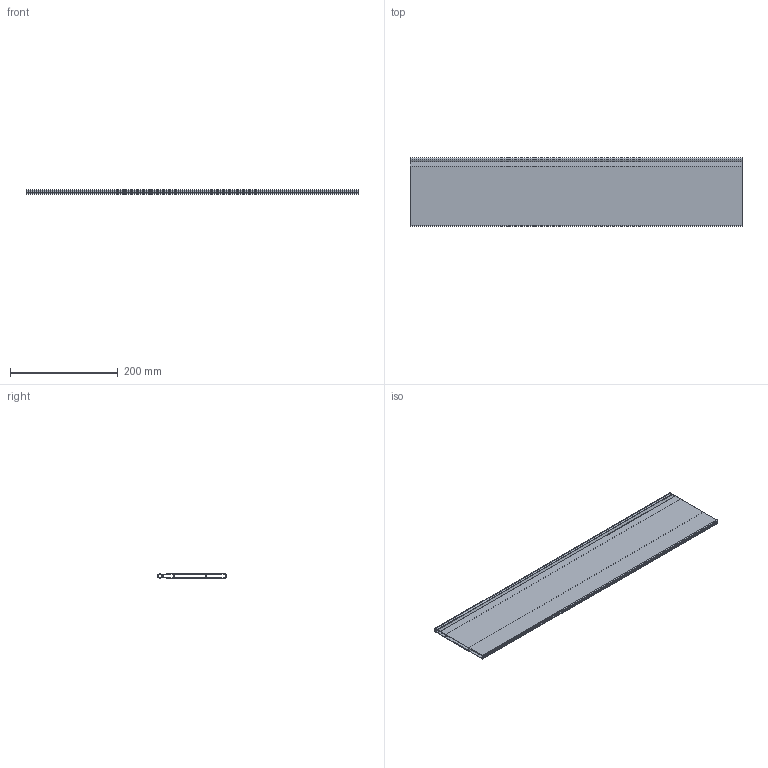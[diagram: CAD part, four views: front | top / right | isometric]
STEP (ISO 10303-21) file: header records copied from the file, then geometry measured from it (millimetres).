
FILE_DESCRIPTION (( 'STEP AP214' ), '1' );
FILE_NAME ('_Magic Optima Unterteilungsprofil DWD XP KAB 750.step', '2010-08-17T12:26:39', ( 'grass' ), ( '' ), 'SwSTEP 2.0', 'SolidWorks 2010', '' );
FILE_SCHEMA (( 'AUTOMOTIVE_DESIGN' ));
Length unit declared in the file: millimetre
Products named in the file (1): _Magic Optima Unterteilungsprofil DWD XP  KAB 750
Bounding box: 616 x 127.7 x 8.1 mm (x, y, z)
Volume: 215922.4 mm3; surface area: 334695.4 mm2
Topology: 1 solids, 1 shells, 39 faces, 111 edges, 74 vertices
Faces by surface type: plane 22, cylinder 17
Entity records: 1325 total; most frequent: CARTESIAN_POINT 225, DIRECTION 225, ORIENTED_EDGE 222, EDGE_CURVE 111, VECTOR 77, LINE 77, AXIS2_PLACEMENT_3D 74, VERTEX_POINT 74
